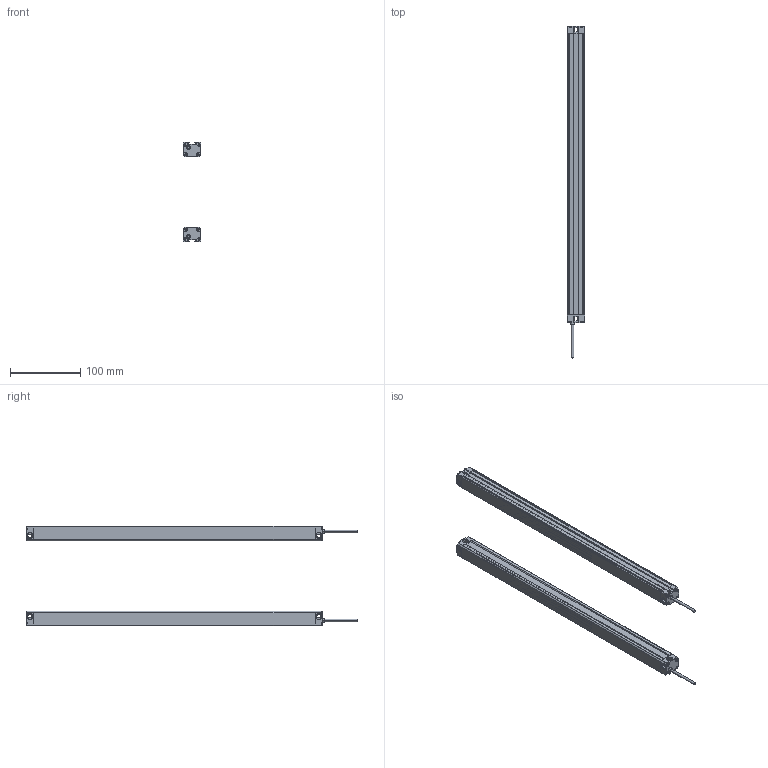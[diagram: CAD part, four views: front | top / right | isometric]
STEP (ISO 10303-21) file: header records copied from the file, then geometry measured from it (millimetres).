
FILE_DESCRIPTION (( 'STEP AP214' ), '1' );
FILE_NAME ('MTC2020.STEP', '2022-08-02T08:57:09', ( '' ), ( '' ), 'SwSTEP 2.0', 'SolidWorks 2018', '' );
FILE_SCHEMA (( 'AUTOMOTIVE_DESIGN' ));
Length unit declared in the file: millimetre
Products named in the file (5): MTC waike^MTC; P01^MTC; 噩砃P02^MTC; MTC2020; P02^MTC
Assembly tree (6 placements, depth 2):
  MTC2020
    MTC waike^MTC  x2
    P01^MTC  x2
    P02^MTC
    噩砃P02^MTC
Bounding box: 25 x 472 x 141.4 mm (x, y, z)
Volume: 144874.6 mm3; surface area: 194653 mm2
Topology: 8 solids, 8 shells, 480 faces, 1396 edges, 924 vertices
Faces by surface type: plane 272, cylinder 208
Entity records: 10886 total; most frequent: DIRECTION 1881, CARTESIAN_POINT 1878, ORIENTED_EDGE 1846, EDGE_CURVE 923, AXIS2_PLACEMENT_3D 637, VERTEX_POINT 610, VECTOR 607, LINE 607
